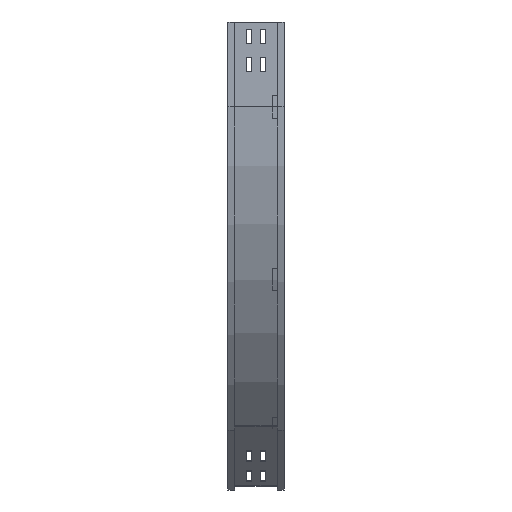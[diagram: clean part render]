
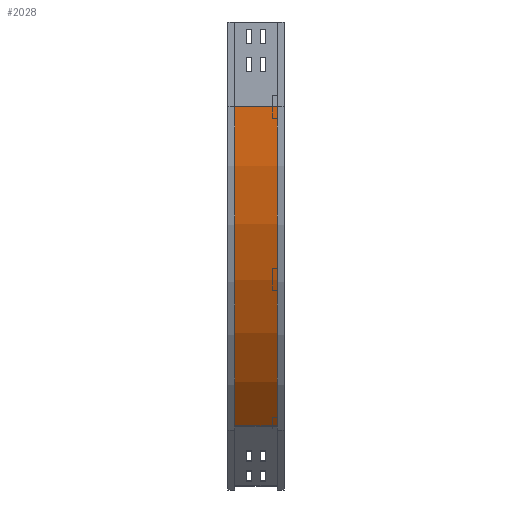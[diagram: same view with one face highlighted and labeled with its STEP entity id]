
A CAD part, left-side view. The second image highlights one B-rep face of the part: STEP entity #2028.
In plain terms, the highlighted cylindrical face has radius 800 mm (diameter 1600 mm), a partial arc.
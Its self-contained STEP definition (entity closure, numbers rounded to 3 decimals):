
#2 = CARTESIAN_POINT ( 'NONE',  ( 9., 12., -150. ) ) ;
#203 = DIRECTION ( 'NONE',  ( 0., -1., 0. ) ) ;
#274 = CIRCLE ( 'NONE', #4335, 800. ) ;
#513 = CARTESIAN_POINT ( 'NONE',  ( 9., 88., -150. ) ) ;
#551 = AXIS2_PLACEMENT_3D ( 'NONE', #580, #4057, #902 ) ;
#580 = CARTESIAN_POINT ( 'NONE',  ( 809., 0., -150. ) ) ;
#783 = CARTESIAN_POINT ( 'NONE',  ( 809., 88., -150. ) ) ;
#875 = VERTEX_POINT ( 'NONE', #513 ) ;
#902 = DIRECTION ( 'NONE',  ( 0., 0., -1. ) ) ;
#972 = CARTESIAN_POINT ( 'NONE',  ( 243.315, 88., -715.685 ) ) ;
#992 = VERTEX_POINT ( 'NONE', #972 ) ;
#1000 = VECTOR ( 'NONE', #203, 1000. ) ;
#1181 = ORIENTED_EDGE ( 'NONE', *, *, #1320, .F. ) ;
#1260 = DIRECTION ( 'NONE',  ( -1., 0., 0. ) ) ;
#1320 = EDGE_CURVE ( 'NONE', #875, #3267, #3498, .T. ) ;
#1433 = CARTESIAN_POINT ( 'NONE',  ( 243.315, 12., -715.685 ) ) ;
#1774 = DIRECTION ( 'NONE',  ( 0., -1., 0. ) ) ;
#1915 = ORIENTED_EDGE ( 'NONE', *, *, #2006, .F. ) ;
#1921 = CARTESIAN_POINT ( 'NONE',  ( 243.315, 12., -715.685 ) ) ;
#1977 = ORIENTED_EDGE ( 'NONE', *, *, #2260, .T. ) ;
#1996 = EDGE_CURVE ( 'NONE', #992, #2965, #2341, .T. ) ;
#2006 = EDGE_CURVE ( 'NONE', #3267, #2965, #2454, .T. ) ;
#2028 = ADVANCED_FACE ( 'NONE', ( #2665 ), #3710, .T. ) ;
#2204 = DIRECTION ( 'NONE',  ( -1., 0., 0. ) ) ;
#2260 = EDGE_CURVE ( 'NONE', #875, #992, #274, .T. ) ;
#2278 = CARTESIAN_POINT ( 'NONE',  ( 9., 12., -150. ) ) ;
#2321 = DIRECTION ( 'NONE',  ( 0., -1., 0. ) ) ;
#2341 = LINE ( 'NONE', #1921, #1000 ) ;
#2454 = CIRCLE ( 'NONE', #4106, 800. ) ;
#2665 = FACE_OUTER_BOUND ( 'NONE', #2970, .T. ) ;
#2670 = VECTOR ( 'NONE', #1774, 1000. ) ;
#2965 = VERTEX_POINT ( 'NONE', #1433 ) ;
#2970 = EDGE_LOOP ( 'NONE', ( #1915, #1181, #1977, #4480 ) ) ;
#3194 = DIRECTION ( 'NONE',  ( 0., -1., 0. ) ) ;
#3267 = VERTEX_POINT ( 'NONE', #2278 ) ;
#3498 = LINE ( 'NONE', #2, #2670 ) ;
#3710 = CYLINDRICAL_SURFACE ( 'NONE', #551, 800. ) ;
#4036 = CARTESIAN_POINT ( 'NONE',  ( 809., 12., -150. ) ) ;
#4057 = DIRECTION ( 'NONE',  ( 0., -1., 0. ) ) ;
#4106 = AXIS2_PLACEMENT_3D ( 'NONE', #4036, #2321, #1260 ) ;
#4335 = AXIS2_PLACEMENT_3D ( 'NONE', #783, #3194, #2204 ) ;
#4480 = ORIENTED_EDGE ( 'NONE', *, *, #1996, .T. ) ;
